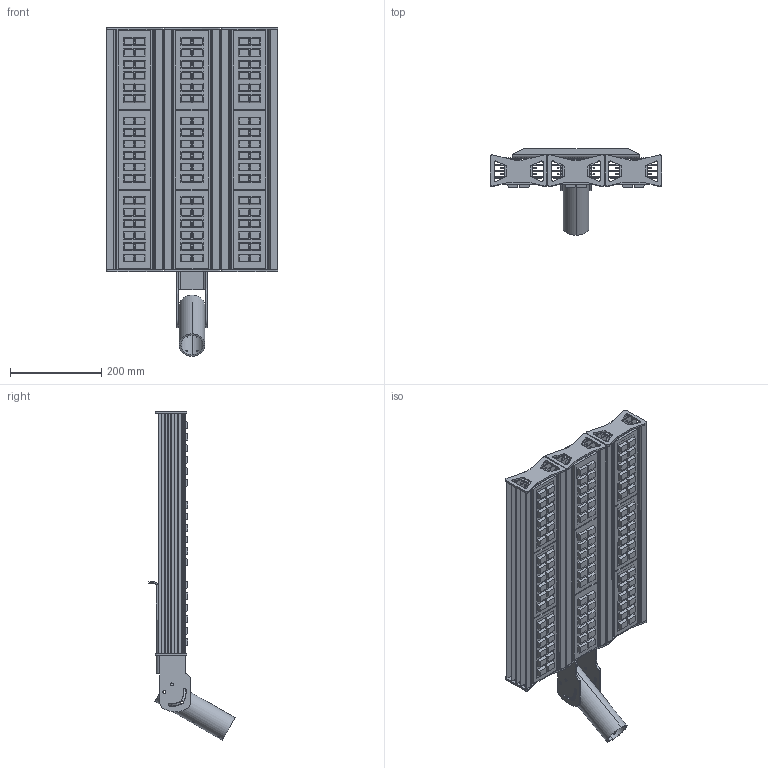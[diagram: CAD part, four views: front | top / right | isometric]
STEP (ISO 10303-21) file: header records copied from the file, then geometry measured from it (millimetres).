
FILE_DESCRIPTION (( 'STEP AP214' ), '1' );
FILE_NAME ('TERMINATOR 168-T1.STEP', '2022-07-22T16:11:57', ( '' ), ( '' ), 'SwSTEP 2.0', 'SolidWorks 2020', '' );
FILE_SCHEMA (( 'AUTOMOTIVE_DESIGN' ));
Length unit declared in the file: millimetre
Products named in the file (9): 砎鍻樏襜禬84; Çàãëóøêà òîðöåâàÿ_RAD-STR-ST-01.00.09; TERMINATOR 168-T1;  扰鍙欙樥燲RAD-TERM-ST.00.00.001; Ïðîôèëü óïðîùåííûé terminatora_84 ‚â; ﾋ竟鈞; 扰鍙欙樥燲RAD-STR-ST.00.00.010
Assembly tree (23 placements, depth 3):
  TERMINATOR 168-T1
     扰鍙欙樥燲RAD-TERM-ST.00.00.001
    扰鍙欙樥燲RAD-STR-ST.00.00.010
    砎鍻樏襜禬84
      Ïðîôèëü óïðîùåííûé terminatora_84 ‚â
      Çàãëóøêà òîðöåâàÿ_RAD-STR-ST-01.00.09  x2
      ﾋ竟鈞  x3
    砎鍻樏襜禬84
      Ïðîôèëü óïðîùåííûé terminatora_84 ‚â
      Çàãëóøêà òîðöåâàÿ_RAD-STR-ST-01.00.09  x2
      ﾋ竟鈞  x3
    砎鍻樏襜禬84
      Ïðîôèëü óïðîùåííûé terminatora_84 ‚â
      Çàãëóøêà òîðöåâàÿ_RAD-STR-ST-01.00.09  x2
      ﾋ竟鈞  x3
Bounding box: 376 x 188.94 x 721.65 mm (x, y, z)
Volume: 6693462.5 mm3; surface area: 2262038.3 mm2
Topology: 20 solids, 20 shells, 1478 faces, 3939 edges, 2618 vertices
Faces by surface type: plane 1143, cylinder 335
Entity records: 16425 total; most frequent: CARTESIAN_POINT 3666, DIRECTION 2615, ORIENTED_EDGE 2574, EDGE_CURVE 1287, VECTOR 873, LINE 873, AXIS2_PLACEMENT_3D 871, VERTEX_POINT 850
